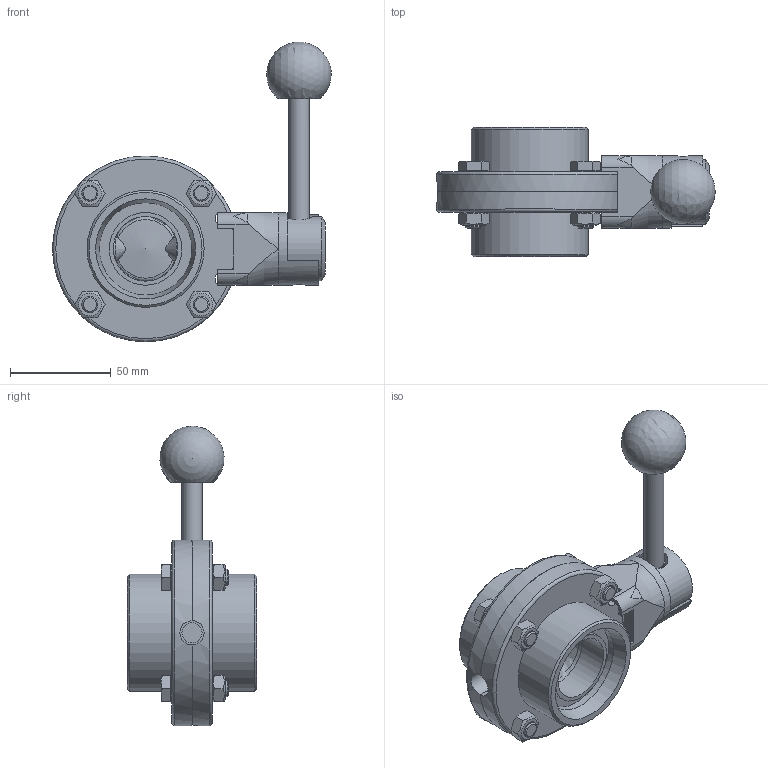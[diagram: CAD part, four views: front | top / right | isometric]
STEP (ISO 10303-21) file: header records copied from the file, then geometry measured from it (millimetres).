
FILE_DESCRIPTION((''),'2;1');
FILE_NAME('V:\Výkresy (KATALOG + NÁVODY)\STEP 3D-pdf\4xxxx\step\43030\43030-032.stp','2018-11-13T13:06:00',('fonai'),(''),'Autodesk Inventor 2010','Autodesk Inventor 2010','');
FILE_SCHEMA(('AUTOMOTIVE_DESIGN { 1 0 10303 214 1 1 1 1 }'));
Length unit declared in the file: millimetre
Products named in the file (15): 4303-032; 4329-032-Srdce klapky; 4338-025-032 Páka ručního ovládání; 43481-025-065-9,5 Střed ovládání malý-Handle pivot small; 4348-S2K+H-025-032 Tyčka ovládani; 4348-S2K+H-025-032 Tyčka ovládani_1; 4348-S2- Trubka-025; 43483-025-065 Plášť ovládání malý-Handle cover small; KOULA-25-65; Pružina-025-032; DIN 961 - nahrazený DIN EN 28676 M8 x 28; DIN 934 - nahrazený DIN EN 24032/28673/28674 M8 x 1; 4382-032-NEW-TW-Přírubá klapka-závitová; 4328-032-Těsnění pro klapku; 4330-032-Ložisko klapky
Assembly tree (22 placements, depth 4):
  4303-032
    4329-032-Srdce klapky
    4338-025-032 Páka ručního ovládání
      43481-025-065-9,5 Střed ovládání malý-Handle pivot small
      4348-S2K+H-025-032 Tyčka ovládani
        4348-S2K+H-025-032 Tyčka ovládani_1
        4348-S2- Trubka-025
      43483-025-065 Plášť ovládání malý-Handle cover small
      KOULA-25-65
      Pružina-025-032
    DIN 961 - nahrazený DIN EN 28676 M8 x 28  x4
    DIN 934 - nahrazený DIN EN 24032/28673/28674 M8 x 1  x4
    4382-032-NEW-TW-Přírubá klapka-závitová  x2
    4328-032-Těsnění pro klapku
    4330-032-Ložisko klapky  x2
Bounding box: 138 x 64 x 148.35 mm (x, y, z)
Volume: 249528.5 mm3; surface area: 94193.4 mm2
Topology: 20 solids, 20 shells, 332 faces, 799 edges, 507 vertices
Faces by surface type: plane 158, cylinder 68, cone 68, bspline 27, torus 10, sphere 1
Full cylindrical faces by diameter (mm): 6 x1, 6.5 x4, 7 x1, 8 x4, 8.5 x8, 10 x5, 10.2 x1, 11.6 x4, 12 x2, 14 x2, 14.1 x1, 31.8 x1, 32 x2, 36 x3, 45.8 x2, 48 x3, 58 x2, 92 x2
Entity records: 7602 total; most frequent: CARTESIAN_POINT 2809, DIRECTION 905, ORIENTED_EDGE 812, EDGE_CURVE 406, AXIS2_PLACEMENT_3D 369, EDGE_LOOP 322, VERTEX_POINT 298, FACE_OUTER_BOUND 204
